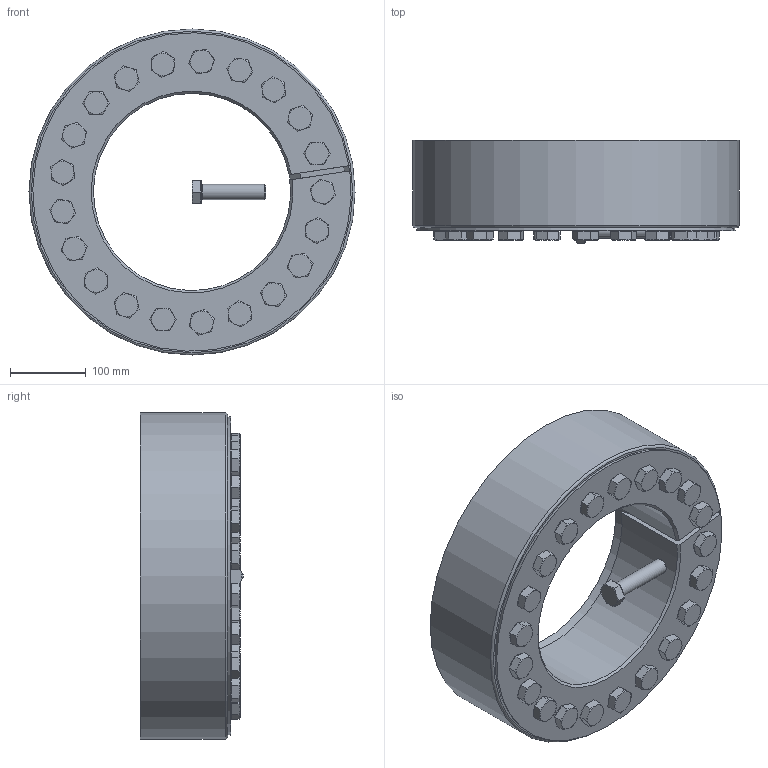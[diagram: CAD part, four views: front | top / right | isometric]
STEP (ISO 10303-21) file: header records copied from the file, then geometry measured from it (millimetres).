
FILE_DESCRIPTION( ( 'Unknown' ), '1' );
FILE_NAME( 'C:/Dokumente und Einstellungen/Sven/Desktop/homepage/cad - homepage/KBS19-1/KBS 19_1 - 260 x 430.stp', 'Unknown', ( 'Unknown' ), ( 'Unknown' ), 'XStep 1.0', 'Unknown', ' ' );
FILE_SCHEMA( ( 'automotive_design' ) );
Length unit declared in the file: millimetre
Products named in the file (3): Assem1; KBS 19_1 - 260 x 430; ISO 4017 - M20 x 85-N
Bounding box: 430 x 136.32 x 430 mm (x, y, z)
Volume: 20999297.1 mm3; surface area: 1363551.3 mm2
Topology: 24 solids, 24 shells, 622 faces, 1364 edges, 812 vertices
Faces by surface type: plane 348, cone 160, cylinder 90, torus 24
Full cylindrical faces by diameter (mm): 20 x64, 30 x22, 430 x2
Entity records: 2194 total; most frequent: CARTESIAN_POINT 383, DIRECTION 344, ORIENTED_EDGE 250, AXIS2_PLACEMENT_3D 153, EDGE_LOOP 133, EDGE_CURVE 125, VERTEX_POINT 96, FACE_OUTER_BOUND 87
